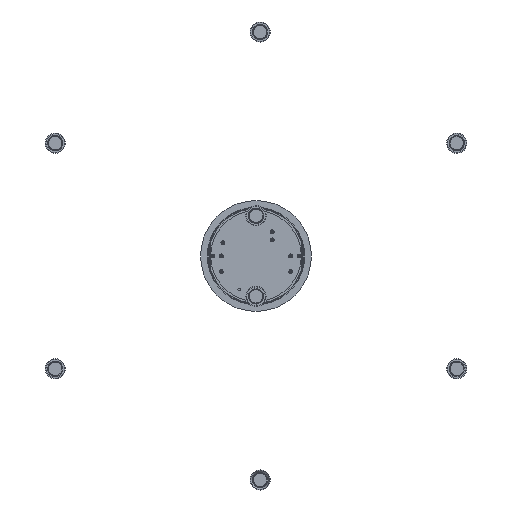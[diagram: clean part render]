
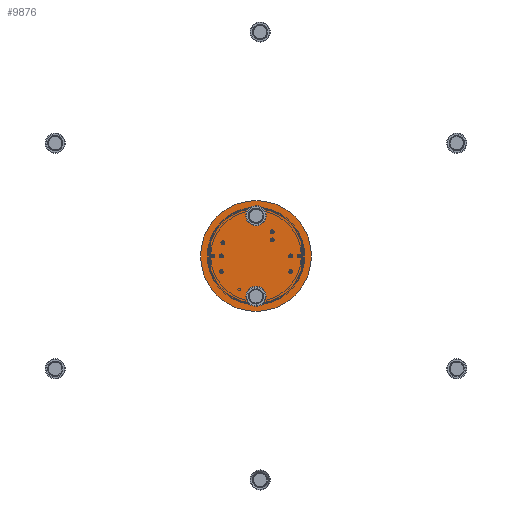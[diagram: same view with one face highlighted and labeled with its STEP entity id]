
A CAD part, front view. The second image highlights one B-rep face of the part: STEP entity #9876.
In plain terms, the highlighted planar face has unit normal (0, -1, 0).
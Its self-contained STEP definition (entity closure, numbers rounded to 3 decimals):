
#204=FACE_BOUND('',#1266,.T.);
#205=FACE_BOUND('',#1267,.T.);
#329=PLANE('',#10607);
#626=FACE_OUTER_BOUND('',#1265,.T.);
#1265=EDGE_LOOP('',(#6354));
#1266=EDGE_LOOP('',(#6355,#6356));
#1267=EDGE_LOOP('',(#6357,#6358));
#2004=CIRCLE('',#10556,6.);
#2005=CIRCLE('',#10557,6.);
#2044=CIRCLE('',#10603,6.);
#2045=CIRCLE('',#10604,6.);
#2048=CIRCLE('',#10608,82.5);
#3952=VERTEX_POINT('',#15449);
#3953=VERTEX_POINT('',#15450);
#3994=VERTEX_POINT('',#15544);
#3995=VERTEX_POINT('',#15545);
#3998=VERTEX_POINT('',#15554);
#4904=EDGE_CURVE('',#3952,#3953,#2004,.T.);
#4905=EDGE_CURVE('',#3953,#3952,#2005,.T.);
#4950=EDGE_CURVE('',#3994,#3995,#2044,.T.);
#4951=EDGE_CURVE('',#3995,#3994,#2045,.T.);
#4955=EDGE_CURVE('',#3998,#3998,#2048,.T.);
#6354=ORIENTED_EDGE('',*,*,#4955,.F.);
#6355=ORIENTED_EDGE('',*,*,#4950,.T.);
#6356=ORIENTED_EDGE('',*,*,#4951,.T.);
#6357=ORIENTED_EDGE('',*,*,#4904,.T.);
#6358=ORIENTED_EDGE('',*,*,#4905,.T.);
#9876=ADVANCED_FACE('',(#626,#204,#205),#329,.F.);
#10556=AXIS2_PLACEMENT_3D('',#15451,#11998,#11999);
#10557=AXIS2_PLACEMENT_3D('',#15452,#12000,#12001);
#10603=AXIS2_PLACEMENT_3D('',#15546,#12098,#12099);
#10604=AXIS2_PLACEMENT_3D('',#15547,#12100,#12101);
#10607=AXIS2_PLACEMENT_3D('',#15553,#12107,#12108);
#10608=AXIS2_PLACEMENT_3D('',#15555,#12109,#12110);
#11998=DIRECTION('center_axis',(0.,1.,0.));
#11999=DIRECTION('ref_axis',(0.,0.,1.));
#12000=DIRECTION('center_axis',(0.,1.,0.));
#12001=DIRECTION('ref_axis',(0.,0.,1.));
#12098=DIRECTION('center_axis',(0.,1.,0.));
#12099=DIRECTION('ref_axis',(0.,0.,
1.));
#12100=DIRECTION('center_axis',(0.,1.,0.));
#12101=DIRECTION('ref_axis',(0.,0.,
1.));
#12107=DIRECTION('center_axis',(0.,1.,0.));
#12108=DIRECTION('ref_axis',(1.,0.,0.));
#12109=DIRECTION('center_axis',(0.,1.,0.));
#12110=DIRECTION('ref_axis',(0.,0.,
-1.));
#15449=CARTESIAN_POINT('',(-4.472,-1.,64.));
#15450=CARTESIAN_POINT('',(6.,-1.,60.));
#15451=CARTESIAN_POINT('Origin',(0.,-1.,
60.));
#15452=CARTESIAN_POINT('Origin',(0.,-1.,
60.));
#15544=CARTESIAN_POINT('',(-4.472,-1.,-56.));
#15545=CARTESIAN_POINT('',(6.,-1.,-60.));
#15546=CARTESIAN_POINT('Origin',(0.,-1.,
-60.));
#15547=CARTESIAN_POINT('Origin',(0.,-1.,
-60.));
#15553=CARTESIAN_POINT('Origin',(0.,-1.,
0.));
#15554=CARTESIAN_POINT('',(0.,-1.,82.5));
#15555=CARTESIAN_POINT('Origin',(0.,-1.,
0.));
